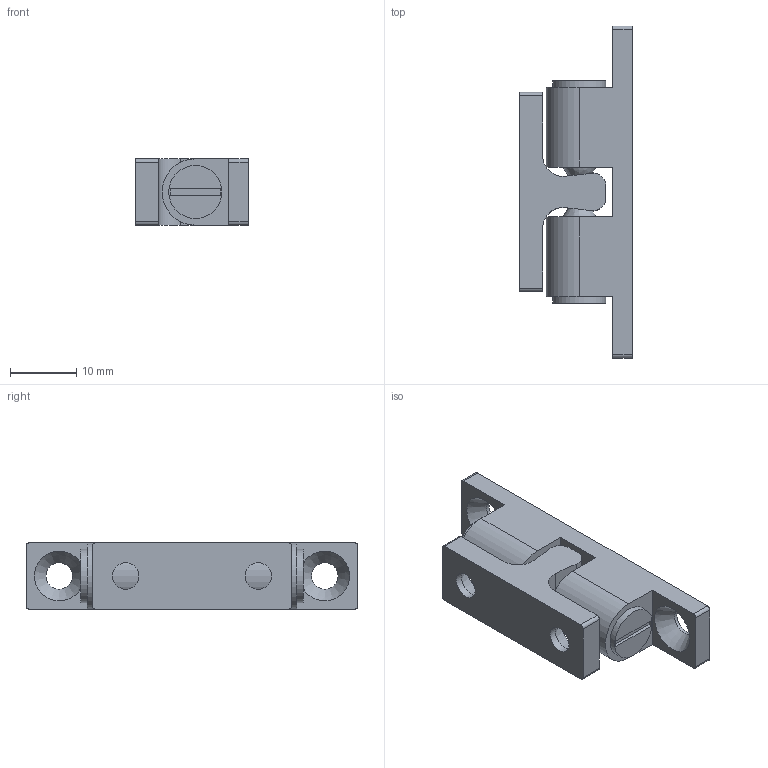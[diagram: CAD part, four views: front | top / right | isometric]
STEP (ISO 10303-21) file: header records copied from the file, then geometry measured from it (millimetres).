
FILE_DESCRIPTION(/* description */ (''),/* implementation_level */ '2;1');
FILE_NAME(/* name */ '\\NAS\db20\B-BS50\DR_B-BS50.stp',/* time_stamp */ '2018-03-05T14:16:26+09:00',/* author */ ('user'),/* organization */ (''),/* preprocessor_version */ 'ST-DEVELOPER v15.6',/* originating_system */ 'Autodesk Inventor 2015',/* authorisation */ '');
FILE_SCHEMA (('AUTOMOTIVE_DESIGN { 1 0 10303 214 3 1 1 }'));
Length unit declared in the file: millimetre
Products named in the file (3): DR_B-BS50; DR_B-BS50-2
Bounding box: 17 x 50 x 10 mm (x, y, z)
Volume: 4686.9 mm3; surface area: 4727 mm2
Topology: 8 solids, 8 shells, 104 faces, 232 edges, 154 vertices
Faces by surface type: plane 50, cylinder 36, bspline 10, cone 8
Full cylindrical faces by diameter (mm): 3 x4, 4 x4, 5 x4, 6 x2, 7 x4, 8 x2
Entity records: 4799 total; most frequent: CARTESIAN_POINT 2527, DIRECTION 458, ORIENTED_EDGE 392, EDGE_CURVE 196, AXIS2_PLACEMENT_3D 181, EDGE_LOOP 156, VERTEX_POINT 148, FACE_OUTER_BOUND 104
